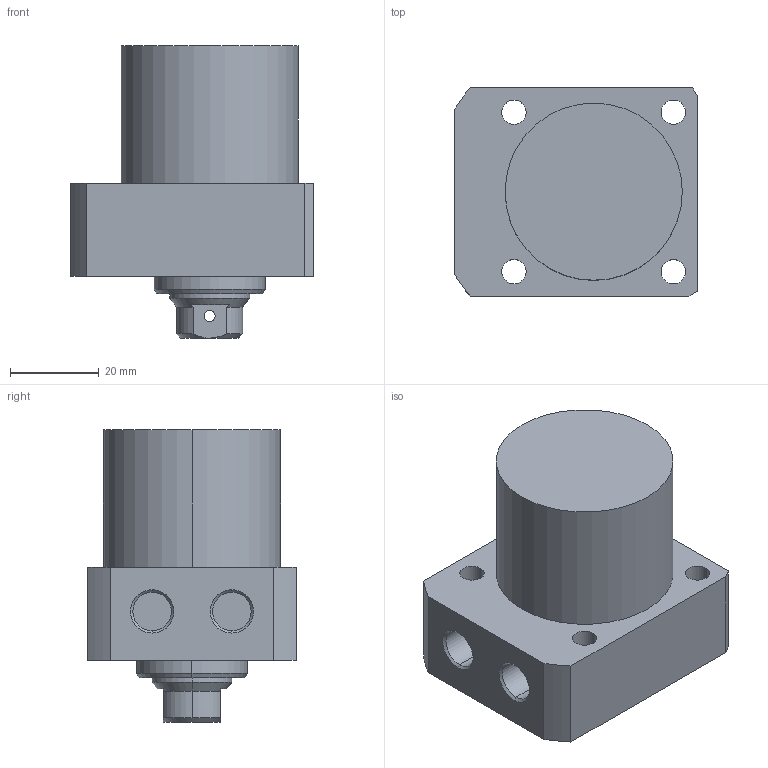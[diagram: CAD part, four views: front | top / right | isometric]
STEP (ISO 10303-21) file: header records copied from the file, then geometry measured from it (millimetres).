
FILE_DESCRIPTION (( 'STEP AP203' ), '1' );
FILE_NAME ('CLL-R040-CB-020.STEP', '2017-05-10T11:56:02', ( '' ), ( '' ), 'SwSTEP 2.0', 'SolidWorks 2015', '' );
FILE_SCHEMA (( 'CONFIG_CONTROL_DESIGN' ));
Length unit declared in the file: millimetre
Products named in the file (1): CLL-R040-CB-020
Bounding box: 55 x 47 x 66 mm (x, y, z)
Volume: 91990.1 mm3; surface area: 16388.7 mm2
Topology: 1 solids, 1 shells, 67 faces, 159 edges, 100 vertices
Faces by surface type: cylinder 33, plane 19, cone 15
Entity records: 2129 total; most frequent: CARTESIAN_POINT 441, DIRECTION 358, ORIENTED_EDGE 314, EDGE_CURVE 157, AXIS2_PLACEMENT_3D 145, VERTEX_POINT 100, EDGE_LOOP 87, CIRCLE 77
